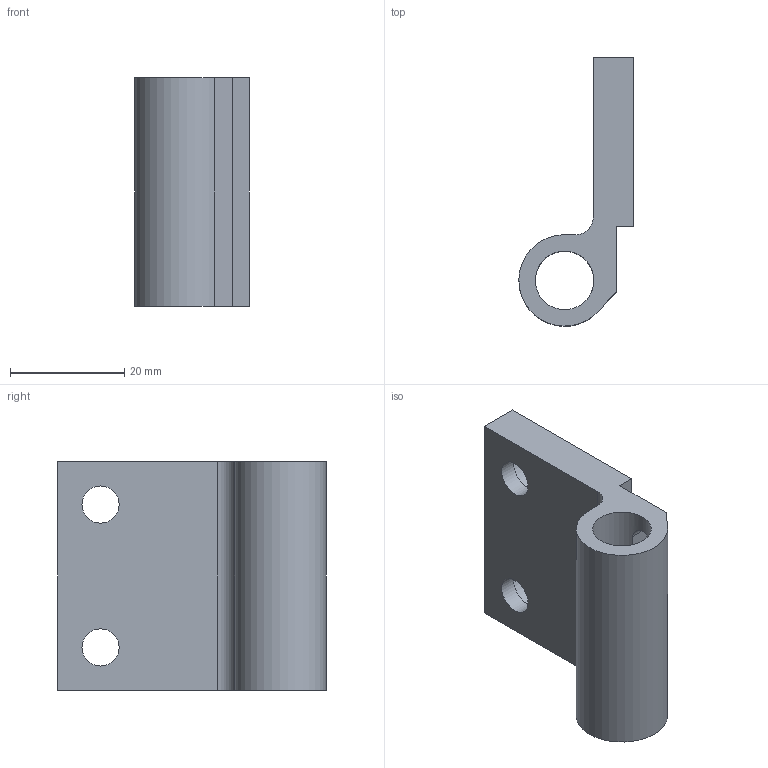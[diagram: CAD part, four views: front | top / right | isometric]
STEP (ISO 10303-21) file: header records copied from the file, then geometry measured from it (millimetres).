
FILE_DESCRIPTION (( 'STEP AP214' ), '1' );
FILE_NAME ('N50131.step', '2024-12-03T16:27:41', ( '' ), ( '' ), 'SwSTEP 2.0', 'SolidWorks 2023', '' );
FILE_SCHEMA (( 'AUTOMOTIVE_DESIGN' ));
Length unit declared in the file: millimetre
Products named in the file (1): N50131
Bounding box: 20 x 47 x 40 mm (x, y, z)
Volume: 13023.6 mm3; surface area: 7202.6 mm2
Topology: 1 solids, 1 shells, 26 faces, 74 edges, 48 vertices
Faces by surface type: plane 15, cylinder 11
Full cylindrical faces by diameter (mm): 6.5 x2, 10.25 x1, 10.5 x2
Entity records: 924 total; most frequent: CARTESIAN_POINT 250, DIRECTION 131, ORIENTED_EDGE 126, EDGE_CURVE 63, AXIS2_PLACEMENT_3D 45, VERTEX_POINT 44, LINE 41, EDGE_LOOP 41
